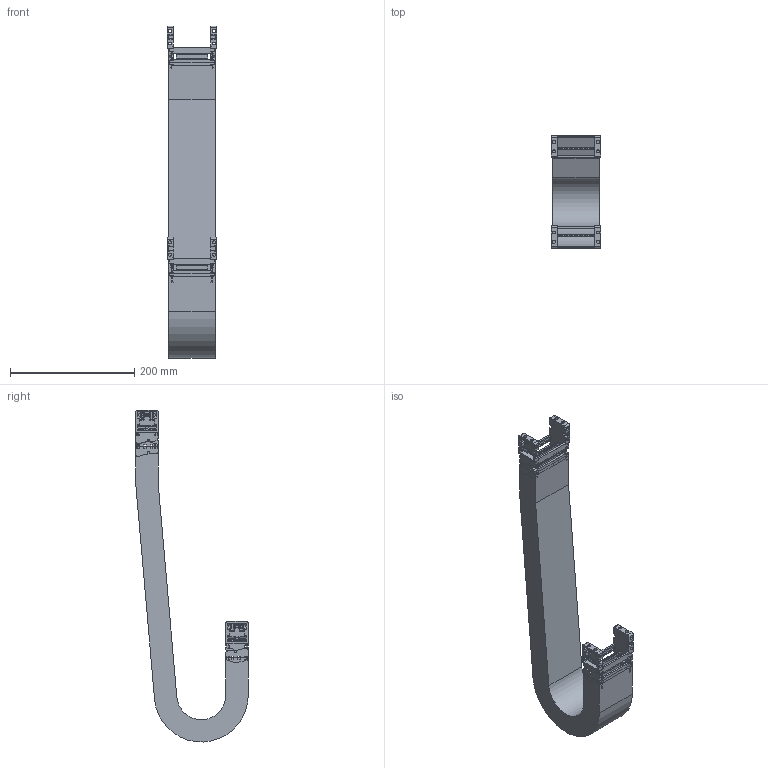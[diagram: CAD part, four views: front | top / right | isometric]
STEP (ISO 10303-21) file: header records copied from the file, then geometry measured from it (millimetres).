
FILE_DESCRIPTION((''),'2;1');
FILE_NAME('KST-25060-055_ASM','2017-12-05T',('KUNI004K'),(''),'PRO/ENGINEER BY PARAMETRIC TECHNOLOGY CORPORATION, 2015200','PRO/ENGINEER BY PARAMETRIC TECHNOLOGY CORPORATION, 2015200','');
FILE_SCHEMA(('AUTOMOTIVE_DESIGN { 1 0 10303 214 1 1 1 1 }'));
Length unit declared in the file: millimetre
Products named in the file (13): 25FBR; 25FBL; 25060C; KST25FBR_W060_ASM; 25055R; 25055L; 25060H; KST25060-055_1_ASM; KST25060_R55_BODY; 25MBR; 25MBL; KST25MBR_W060_ASM; KST-25060-055_ASM
Assembly tree (19 placements, depth 3):
  KST-25060-055_ASM
    KST25FBR_W060_ASM
      25FBR
      25FBL
      25060C  x2
    KST25060-055_1_ASM  x2
      25055R
      25055L
      25060C
      25060H
    KST25060_R55_BODY
    KST25MBR_W060_ASM
      25MBR
      25MBL
      25060C  x2
Bounding box: 80 x 181 x 534.23 mm (x, y, z)
Volume: 836790.4 mm3; surface area: 399519.9 mm2
Topology: 21 solids, 21 shells, 2564 faces, 7130 edges, 4624 vertices
Faces by surface type: plane 1330, cylinder 930, bspline 208, sphere 64, torus 32
Entity records: 68638 total; most frequent: CARTESIAN_POINT 14284, ORIENTED_EDGE 7396, DIRECTION 6504, PRESENTATION_STYLE_ASSIGNMENT 4998, STYLED_ITEM 4998, CURVE_STYLE 3698, EDGE_CURVE 3698, VECTOR 2454
